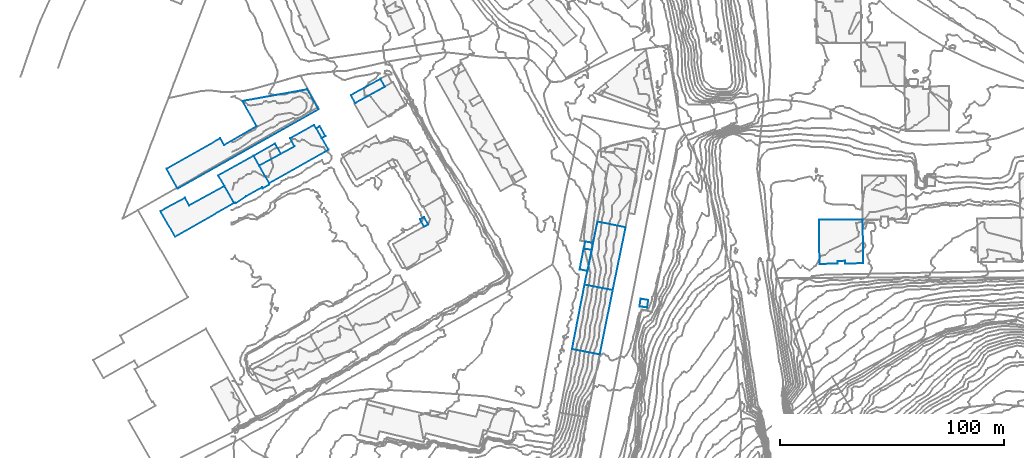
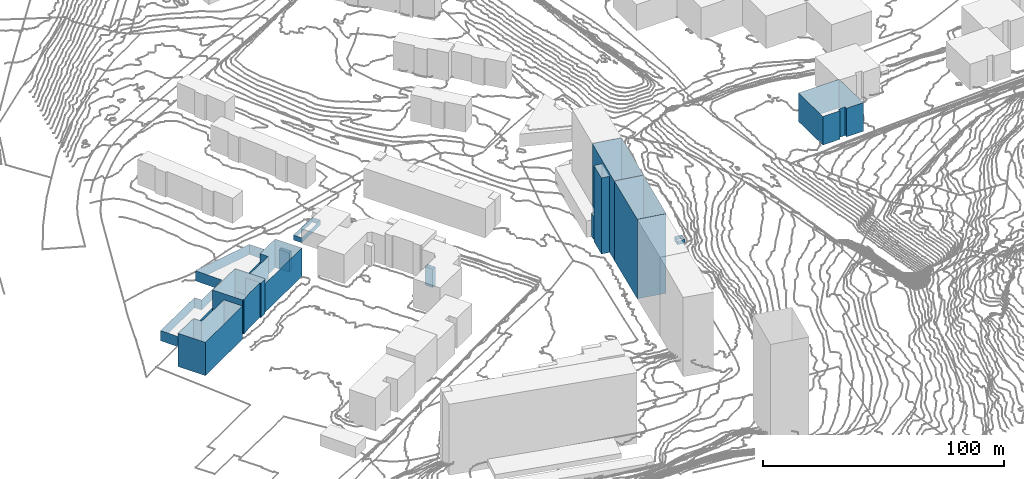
# Not in any storey, part 29 of 419: 14 walls.
"""IFC2X3 model written with IfcOpenShell, lengths in metres."""

from ifc_helpers import new_model, si_unit, frame, origin_with_axes, place, context, subcontext, project, faceted_brep, element, save


model = new_model("IFC2X3")

# Units and contexts
model_context = context("Model", 3, precision=1e-05, world=origin_with_axes())
body_context = subcontext(model_context, "Body", "Model", "MODEL_VIEW")
ifc_project = project(units=[si_unit("AREAUNIT", "SQUARE_METRE"), si_unit("LENGTHUNIT", "METRE")], contexts=[model_context])

# Walls
wall_1_placement = place(None, frame((-32.2079795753, 483.2976909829, 7.1649999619), z_axis=(0.0, 0.0, 1.0), x_axis=(1.0, 0.0, 0.0)))
element("IfcWall", 1, at=wall_1_placement, Name="Mur 0", context=body_context, shape_type="Brep", body=[
    faceted_brep([(28.6000000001, 11.2999999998, 16.8350000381), (33.0, 3.6999999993, 16.8350000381), (28.6000000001, 11.2999999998, 0.0), (33.0, 3.6999999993, 0.0), (12.9, 2.5999999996, 16.8350000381), (12.9, 2.5999999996, 0.0), (11.0, 6.0, 16.8350000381), (11.0, 6.0, 0.0), (0.0, 0.0, 16.8350000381), (0.0, 0.0, 0.0), (6.6000000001, -11.4000000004, 16.8350000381), (6.6000000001, -11.4000000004, 0.0)], [[[0, 1, 2]], [[2, 1, 3]], [[4, 0, 5]], [[5, 0, 2]], [[6, 4, 7]], [[7, 4, 5]], [[8, 6, 9]], [[9, 6, 7]], [[1, 10, 3]], [[3, 10, 11]], [[10, 8, 11]], [[11, 8, 9]]]),
])
wall_2_placement = place(None, frame((151.8920204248, 421.5976909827, 14.3413999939), z_axis=(0.0, 0.0, 1.0), x_axis=(1.0, 0.0, 0.0)))
element("IfcWall", 2, at=wall_2_placement, Name="Mur 0", context=body_context, shape_type="Brep", body=[
    faceted_brep([(12.3999999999, -2.4000000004, 40.2586000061), (0.0, 0.0, 40.2586000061), (12.3999999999, -2.4000000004, 0.0), (0.0, 0.0, 0.0), (18.2, 26.3999999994, 40.2586000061), (18.2, 26.3999999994, 0.0), (5.6, 28.7999999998, 40.2586000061), (5.6, 28.7999999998, 0.0)], [[[0, 1, 2]], [[2, 1, 3]], [[4, 0, 5]], [[5, 0, 2]], [[1, 6, 3]], [[3, 6, 7]], [[6, 4, 7]], [[7, 4, 5]]]),
])
wall_3_placement = place(None, frame((157.0920204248, 466.4976909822, 15.0005000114), z_axis=(0.0, 0.0, 1.0), x_axis=(1.0, 0.0, 0.0)))
element("IfcWall", 3, at=wall_3_placement, Name="Mur 0", context=body_context, shape_type="Brep", body=[
    faceted_brep([(4.2, 2.6000000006, 11.4994999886), (3.7, -0.5, 11.4994999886), (4.2, 2.6000000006, 0.0), (3.7, -0.5, 0.0), (0.7, 3.2000000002, 11.4994999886), (0.7, 3.2000000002, 0.0), (0.0, 0.0, 11.4994999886), (0.0, 0.0, 0.0)], [[[0, 1, 2]], [[2, 1, 3]], [[4, 0, 5]], [[5, 0, 2]], [[1, 6, 3]], [[3, 6, 7]], [[6, 4, 7]], [[7, 4, 5]]]),
])
wall_4_placement = place(None, frame((37.4920204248, 520.3976909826, 9.6730000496), z_axis=(0.0, 0.0, 1.0), x_axis=(1.0, 0.0, 0.0)))
element("IfcWall", 4, at=wall_4_placement, Name="Mur 0", context=body_context, shape_type="Brep", body=[
    faceted_brep([(4.1, -3.5, 9.8269999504), (2.5, -4.4000000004, 9.8269999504), (4.1, -3.5, 0.0), (2.5, -4.4000000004, 0.0), (1.6, 0.9000000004, 9.8269999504), (1.6, 0.9000000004, 0.0), (0.0, 0.0, 9.8269999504), (0.0, 0.0, 0.0)], [[[0, 1, 2]], [[2, 1, 3]], [[4, 0, 5]], [[5, 0, 2]], [[1, 6, 3]], [[3, 6, 7]], [[6, 4, 7]], [[7, 4, 5]]]),
])
wall_5_placement = place(None, frame((52.9920204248, 535.1976909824, 9.8683998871), z_axis=(0.0, 0.0, 1.0), x_axis=(1.0, 0.0, 0.0)))
element("IfcWall", 5, at=wall_5_placement, Name="Mur 0", context=body_context, shape_type="Brep", body=[
    faceted_brep([(15.2, 3.7999999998, 2.5316001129), (2.0, -3.5, 2.5316001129), (15.2, 3.7999999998, 0.0), (2.0, -3.5, 0.0), (13.2, 7.2999999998, 2.5316001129), (13.2, 7.2999999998, 0.0), (0.0, 0.0, 2.5316001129), (0.0, 0.0, 0.0)], [[[0, 1, 2]], [[2, 1, 3]], [[4, 0, 5]], [[5, 0, 2]], [[1, 6, 3]], [[3, 6, 7]], [[6, 4, 7]], [[7, 4, 5]]]),
])
wall_6_placement = place(None, frame((-6.3079795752, 499.2976909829, 9.6026999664), z_axis=(0.0, 0.0, 1.0), x_axis=(1.0, 0.0, 0.0)))
element("IfcWall", 6, at=wall_6_placement, Name="Mur 0", context=body_context, shape_type="Brep", body=[
    faceted_brep([(7.6, -12.1000000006, 17.4973000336), (7.1, -12.3000000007, 17.4973000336), (7.6, -12.1000000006, 0.0), (7.1, -12.3000000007, 0.0), (7.8, -12.5, 17.4973000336), (7.8, -12.5, 0.0), (12.4, -9.3000000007, 17.4973000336), (12.4, -9.3000000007, 0.0), (19.5, -5.3000000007, 17.4973000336), (19.5, -5.3000000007, 0.0), (19.8, -5.8000000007, 17.4973000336), (19.8, -5.8000000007, 0.0), (22.7000000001, -4.1000000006, 17.4973000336), (22.7000000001, -4.1000000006, 0.0), (22.8, -3.5, 17.4973000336), (22.8, -3.5, 0.0), (15.8, 8.7999999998, 17.4973000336), (15.8, 8.7999999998, 0.0), (0.0, 0.0, 17.4973000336), (0.0, 0.0, 0.0)], [[[0, 1, 2]], [[2, 1, 3]], [[4, 0, 5]], [[5, 0, 2]], [[6, 4, 7]], [[7, 4, 5]], [[8, 6, 9]], [[9, 6, 7]], [[10, 8, 11]], [[11, 8, 9]], [[12, 10, 13]], [[13, 10, 11]], [[14, 12, 15]], [[15, 12, 13]], [[16, 14, 17]], [[17, 14, 15]], [[1, 18, 3]], [[3, 18, 19]], [[18, 16, 19]], [[19, 16, 17]]]),
])
wall_7_placement = place(None, frame((11.9920204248, 503.6976909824, 9.7199997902), z_axis=(0.0, 0.0, 1.0), x_axis=(1.0, 0.0, 0.0)))
element("IfcWall", 7, at=wall_7_placement, Name="Mur 0", context=body_context, shape_type="Brep", body=[
    faceted_brep([(31.0, 7.1000000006, 14.4800002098), (4.5, -7.8999999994, 14.4800002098), (31.0, 7.1000000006, 0.0), (4.5, -7.8999999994, 0.0), (24.6, 18.2000000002, 14.4800002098), (24.6, 18.2000000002, 0.0), (13.9, 12.2000000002, 14.4800002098), (13.9, 12.2000000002, 0.0), (15.7999999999, 8.6000000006, 14.4800002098), (15.7999999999, 8.6000000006, 0.0), (0.0, 0.0, 14.4800002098), (0.0, 0.0, 0.0)], [[[0, 1, 2]], [[2, 1, 3]], [[4, 0, 5]], [[5, 0, 2]], [[6, 4, 7]], [[7, 4, 5]], [[8, 6, 9]], [[9, 6, 7]], [[1, 10, 3]], [[3, 10, 11]], [[10, 8, 11]], [[11, 8, 9]]]),
])
wall_8_placement = place(None, frame((155.2920204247, 457.1976909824, 14.2041998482), z_axis=(0.0, 0.0, 1.0), x_axis=(1.0, 0.0, 0.0)))
element("IfcWall", 8, at=wall_8_placement, Name="Mur 0", context=body_context, shape_type="Brep", body=[
    faceted_brep([(5.5, 8.7999999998, 38.4958001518), (3.6000000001, -0.5999999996, 38.4958001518), (5.5, 8.7999999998, 0.0), (3.6000000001, -0.5999999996, 0.0), (1.8, 9.2999999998, 38.4958001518), (1.8, 9.2999999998, 0.0), (0.0, 0.0, 38.4958001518), (0.0, 0.0, 0.0)], [[[0, 1, 2]], [[2, 1, 3]], [[4, 0, 5]], [[5, 0, 2]], [[1, 6, 3]], [[3, 6, 7]], [[6, 4, 7]], [[7, 4, 5]]]),
])
wall_9_placement = place(None, frame((9.4920204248, 508.0976909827, 9.6026999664), z_axis=(0.0, 0.0, 1.0), x_axis=(1.0, 0.0, 0.0)))
element("IfcWall", 9, at=wall_9_placement, Name="Mur 0", context=body_context, shape_type="Brep", body=[
    faceted_brep([(12.2, 0.8999999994, 5.8973000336), (2.5, -4.4000000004, 5.8973000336), (12.2, 0.8999999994, 0.0), (2.5, -4.4000000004, 0.0), (9.6, 5.5, 5.8973000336), (9.6, 5.5, 0.0), (0.0, 0.0, 5.8973000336), (0.0, 0.0, 0.0)], [[[0, 1, 2]], [[2, 1, 3]], [[4, 0, 5]], [[5, 0, 2]], [[1, 6, 3]], [[3, 6, 7]], [[6, 4, 7]], [[7, 4, 5]]]),
])
wall_10_placement = place(None, frame((-29.5079795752, 502.2976909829, 7.7300000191), z_axis=(0.0, 0.0, 1.0), x_axis=(1.0, 0.0, 0.0)))
element("IfcWall", 10, at=wall_10_placement, Name="Mur 0", context=body_context, shape_type="Brep", body=[
    faceted_brep([(68.0, 26.5999999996, 5.1699999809), (5.0, -8.9000000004, 5.1699999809), (68.0, 26.5999999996, 0.0), (5.0, -8.9000000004, 0.0), (63.0, 35.5, 5.1699999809), (63.0, 35.5, 0.0), (34.1, 30.2999999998, 5.1699999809), (34.1, 30.2999999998, 0.0), (40.2999999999, 19.0, 5.1699999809), (40.2999999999, 19.0, 0.0), (25.7999999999, 10.5999999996, 5.1699999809), (25.7999999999, 10.5999999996, 0.0), (24.1, 13.5999999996, 5.1699999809), (24.1, 13.5999999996, 0.0), (0.0, 0.0, 5.1699999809), (0.0, 0.0, 0.0)], [[[0, 1, 2]], [[2, 1, 3]], [[4, 0, 5]], [[5, 0, 2]], [[6, 4, 7]], [[7, 4, 5]], [[8, 6, 9]], [[9, 6, 7]], [[10, 8, 11]], [[11, 8, 9]], [[12, 10, 13]], [[13, 10, 11]], [[1, 14, 3]], [[3, 14, 15]], [[14, 12, 15]], [[15, 12, 13]]]),
])
wall_11_placement = place(None, frame((83.8920204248, 479.6976909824, 9.9632000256), z_axis=(0.0, 0.0, 1.0), x_axis=(1.0, 0.0, 0.0)))
element("IfcWall", 11, at=wall_11_placement, Name="Mur 0", context=body_context, shape_type="Brep", body=[
    faceted_brep([(1.8999999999, 1.0, 9.2367999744), (3.7, -2.2999999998, 9.2367999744), (1.8999999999, 1.0, 0.0), (3.7, -2.2999999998, 0.0), (0.0, 0.0, 9.2367999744), (0.0, 0.0, 0.0), (1.7999999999, -3.2999999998, 9.2367999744), (1.7999999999, -3.2999999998, 0.0)], [[[0, 1, 2]], [[2, 1, 3]], [[4, 0, 5]], [[5, 0, 2]], [[1, 6, 3]], [[3, 6, 7]], [[6, 4, 7]], [[7, 4, 5]]]),
])
wall_12_placement = place(None, frame((157.4920204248, 450.3976909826, 14.4179998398), z_axis=(0.0, 0.0, 1.0), x_axis=(1.0, 0.0, 0.0)))
element("IfcWall", 12, at=wall_12_placement, Name="Mur 0", context=body_context, shape_type="Brep", body=[
    faceted_brep([(12.6, -2.4000000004, 39.9820001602), (0.0, 0.0, 39.9820001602), (12.6, -2.4000000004, 0.0), (0.0, 0.0, 0.0), (18.4, 25.7000000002, 39.9820001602), (18.4, 25.7000000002, 0.0), (5.7999999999, 28.2000000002, 39.9820001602), (5.7999999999, 28.2000000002, 0.0)], [[[0, 1, 2]], [[2, 1, 3]], [[4, 0, 5]], [[5, 0, 2]], [[1, 6, 3]], [[3, 6, 7]], [[6, 4, 7]], [[7, 4, 5]]]),
])
wall_13_placement = place(None, frame((262.3920204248, 479.4976909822, 30.2231999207), z_axis=(0.0, 0.0, 1.0), x_axis=(1.0, 0.0, 0.0)))
element("IfcWall", 13, at=wall_13_placement, Name="Mur 0", context=body_context, shape_type="Brep", body=[
    faceted_brep([(0.0, 0.0, 14.4768000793), (19.5, 0.1000000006, 14.4768000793), (0.0, 0.0, 0.0), (19.5, 0.1000000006, 0.0), (0.2, -19.7999999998, 14.4768000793), (0.2, -19.7999999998, 0.0), (8.3999999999, -19.6999999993, 14.4768000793), (8.3999999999, -19.6999999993, 0.0), (8.3999999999, -18.5, 14.4768000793), (8.3999999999, -18.5, 0.0), (11.7, -18.3999999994, 14.4768000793), (11.7, -18.3999999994, 0.0), (11.7, -19.5999999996, 14.4768000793), (11.7, -19.5999999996, 0.0), (19.7999999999, -19.5, 14.4768000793), (19.7999999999, -19.5, 0.0)], [[[0, 1, 2]], [[2, 1, 3]], [[4, 0, 5]], [[5, 0, 2]], [[6, 4, 7]], [[7, 4, 5]], [[8, 6, 9]], [[9, 6, 7]], [[10, 8, 11]], [[11, 8, 9]], [[12, 10, 13]], [[13, 10, 11]], [[1, 14, 3]], [[3, 14, 15]], [[14, 12, 15]], [[15, 12, 13]]]),
])
wall_14_placement = place(None, frame((182.0920204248, 440.6976909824, 19.4979999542), z_axis=(0.0, 0.0, 1.0), x_axis=(1.0, 0.0, 0.0)))
element("IfcWall", 14, at=wall_14_placement, Name="Mur 0", context=body_context, shape_type="Brep", body=[
    faceted_brep([(0.5, 3.4000000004, 2.0020000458), (3.9, 2.9000000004, 2.0020000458), (0.5, 3.4000000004, 0.0), (3.9, 2.9000000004, 0.0), (0.0, 0.0, 2.0020000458), (0.0, 0.0, 0.0), (3.4, -0.5, 2.0020000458), (3.4, -0.5, 0.0)], [[[0, 1, 2]], [[2, 1, 3]], [[4, 0, 5]], [[5, 0, 2]], [[1, 6, 3]], [[3, 6, 7]], [[6, 4, 7]], [[7, 4, 5]]]),
])

save(model, "model.ifc")
